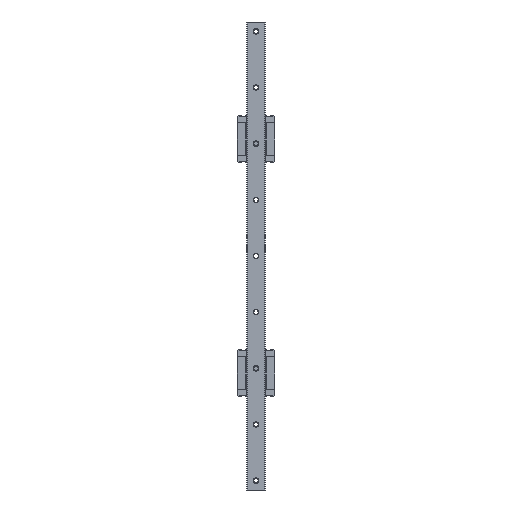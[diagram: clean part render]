
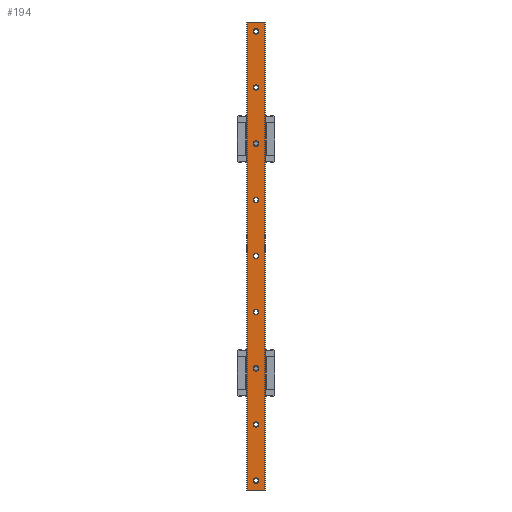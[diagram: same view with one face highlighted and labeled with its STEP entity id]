
A CAD part, front view. The second image highlights one B-rep face of the part: STEP entity #194.
In plain terms, the highlighted planar face has unit normal (0, -1, 0).
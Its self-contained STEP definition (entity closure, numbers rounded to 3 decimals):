
#194 = ADVANCED_FACE( '', ( #521, #522, #523, #524, #525, #526, #527, #528, #529, #530 ), #531, .F. );
#521 = FACE_BOUND( '', #1199, .T. );
#522 = FACE_BOUND( '', #1200, .T. );
#523 = FACE_BOUND( '', #1201, .T. );
#524 = FACE_BOUND( '', #1202, .T. );
#525 = FACE_BOUND( '', #1203, .T. );
#526 = FACE_BOUND( '', #1204, .T. );
#527 = FACE_BOUND( '', #1205, .T. );
#528 = FACE_BOUND( '', #1206, .T. );
#529 = FACE_BOUND( '', #1207, .T. );
#530 = FACE_OUTER_BOUND( '', #1208, .T. );
#531 = PLANE( '', #1209 );
#1199 = EDGE_LOOP( '', ( #1961 ) );
#1200 = EDGE_LOOP( '', ( #1962 ) );
#1201 = EDGE_LOOP( '', ( #1963 ) );
#1202 = EDGE_LOOP( '', ( #1964 ) );
#1203 = EDGE_LOOP( '', ( #1965 ) );
#1204 = EDGE_LOOP( '', ( #1966 ) );
#1205 = EDGE_LOOP( '', ( #1967 ) );
#1206 = EDGE_LOOP( '', ( #1968 ) );
#1207 = EDGE_LOOP( '', ( #1969 ) );
#1208 = EDGE_LOOP( '', ( #1970, #1971, #1972, #1973 ) );
#1209 = AXIS2_PLACEMENT_3D( '', #1974, #1975, #1976 );
#1961 = ORIENTED_EDGE( '', *, *, #4424, .F. );
#1962 = ORIENTED_EDGE( '', *, *, #4425, .F. );
#1963 = ORIENTED_EDGE( '', *, *, #4426, .F. );
#1964 = ORIENTED_EDGE( '', *, *, #4427, .F. );
#1965 = ORIENTED_EDGE( '', *, *, #4428, .F. );
#1966 = ORIENTED_EDGE( '', *, *, #4429, .F. );
#1967 = ORIENTED_EDGE( '', *, *, #4430, .F. );
#1968 = ORIENTED_EDGE( '', *, *, #4431, .F. );
#1969 = ORIENTED_EDGE( '', *, *, #4432, .F. );
#1970 = ORIENTED_EDGE( '', *, *, #4433, .T. );
#1971 = ORIENTED_EDGE( '', *, *, #4434, .F. );
#1972 = ORIENTED_EDGE( '', *, *, #4380, .F. );
#1973 = ORIENTED_EDGE( '', *, *, #4423, .T. );
#1974 = CARTESIAN_POINT( '', ( -9.5, 0., 250. ) );
#1975 = DIRECTION( '', ( 0., 1., 0. ) );
#1976 = DIRECTION( '', ( 0., 0., 1. ) );
#4380 = EDGE_CURVE( '', #5202, #5204, #5205, .T. );
#4423 = EDGE_CURVE( '', #5202, #5277, #5279, .T. );
#4424 = EDGE_CURVE( '', #5280, #5280, #5281, .T. );
#4425 = EDGE_CURVE( '', #5282, #5282, #5283, .T. );
#4426 = EDGE_CURVE( '', #5284, #5284, #5285, .T. );
#4427 = EDGE_CURVE( '', #5286, #5286, #5287, .T. );
#4428 = EDGE_CURVE( '', #5288, #5288, #5289, .T. );
#4429 = EDGE_CURVE( '', #5290, #5290, #5291, .T. );
#4430 = EDGE_CURVE( '', #5292, #5292, #5293, .T. );
#4431 = EDGE_CURVE( '', #5294, #5294, #5295, .T. );
#4432 = EDGE_CURVE( '', #5296, #5296, #5297, .T. );
#4433 = EDGE_CURVE( '', #5277, #5298, #5299, .T. );
#4434 = EDGE_CURVE( '', #5204, #5298, #5300, .T. );
#5202 = VERTEX_POINT( '', #6575 );
#5204 = VERTEX_POINT( '', #6578 );
#5205 = LINE( '', #6579, #6580 );
#5277 = VERTEX_POINT( '', #6680 );
#5279 = LINE( '', #6683, #6684 );
#5280 = VERTEX_POINT( '', #6685 );
#5281 = CIRCLE( '', #6686, 3. );
#5282 = VERTEX_POINT( '', #6687 );
#5283 = CIRCLE( '', #6688, 3. );
#5284 = VERTEX_POINT( '', #6689 );
#5285 = CIRCLE( '', #6690, 3. );
#5286 = VERTEX_POINT( '', #6691 );
#5287 = CIRCLE( '', #6692, 3. );
#5288 = VERTEX_POINT( '', #6693 );
#5289 = CIRCLE( '', #6694, 3. );
#5290 = VERTEX_POINT( '', #6695 );
#5291 = CIRCLE( '', #6696, 3. );
#5292 = VERTEX_POINT( '', #6697 );
#5293 = CIRCLE( '', #6698, 3. );
#5294 = VERTEX_POINT( '', #6699 );
#5295 = CIRCLE( '', #6700, 3. );
#5296 = VERTEX_POINT( '', #6701 );
#5297 = CIRCLE( '', #6702, 3. );
#5298 = VERTEX_POINT( '', #6703 );
#5299 = LINE( '', #6704, #6705 );
#5300 = LINE( '', #6706, #6707 );
#6575 = CARTESIAN_POINT( '', ( -9.5, 0., 250. ) );
#6578 = CARTESIAN_POINT( '', ( 9.5, 0., 250. ) );
#6579 = CARTESIAN_POINT( '', ( -9.5, 0., 250. ) );
#6580 = VECTOR( '', #8580, 1000. );
#6680 = CARTESIAN_POINT( '', ( -9.5, 0., -250. ) );
#6683 = CARTESIAN_POINT( '', ( -9.5, 0., 250. ) );
#6684 = VECTOR( '', #8649, 1000. );
#6685 = CARTESIAN_POINT( '', ( 0., 0., 237. ) );
#6686 = AXIS2_PLACEMENT_3D( '', #8650, #8651, #8652 );
#6687 = CARTESIAN_POINT( '', ( 0., 0., 177. ) );
#6688 = AXIS2_PLACEMENT_3D( '', #8653, #8654, #8655 );
#6689 = CARTESIAN_POINT( '', ( 0., 0., 117. ) );
#6690 = AXIS2_PLACEMENT_3D( '', #8656, #8657, #8658 );
#6691 = CARTESIAN_POINT( '', ( 0., 0., 57. ) );
#6692 = AXIS2_PLACEMENT_3D( '', #8659, #8660, #8661 );
#6693 = CARTESIAN_POINT( '', ( 0., 0., -3. ) );
#6694 = AXIS2_PLACEMENT_3D( '', #8662, #8663, #8664 );
#6695 = CARTESIAN_POINT( '', ( 0., 0., -63. ) );
#6696 = AXIS2_PLACEMENT_3D( '', #8665, #8666, #8667 );
#6697 = CARTESIAN_POINT( '', ( 0., 0., -123. ) );
#6698 = AXIS2_PLACEMENT_3D( '', #8668, #8669, #8670 );
#6699 = CARTESIAN_POINT( '', ( 0., 0., -183. ) );
#6700 = AXIS2_PLACEMENT_3D( '', #8671, #8672, #8673 );
#6701 = CARTESIAN_POINT( '', ( 0., 0., -243. ) );
#6702 = AXIS2_PLACEMENT_3D( '', #8674, #8675, #8676 );
#6703 = CARTESIAN_POINT( '', ( 9.5, 0., -250. ) );
#6704 = CARTESIAN_POINT( '', ( -9.5, 0., -250. ) );
#6705 = VECTOR( '', #8677, 1000. );
#6706 = CARTESIAN_POINT( '', ( 9.5, 0., 250. ) );
#6707 = VECTOR( '', #8678, 1000. );
#8580 = DIRECTION( '', ( 1., 0., 0. ) );
#8649 = DIRECTION( '', ( 0., 0., -1. ) );
#8650 = CARTESIAN_POINT( '', ( 0., 0., 240. ) );
#8651 = DIRECTION( '', ( 0., -1., 0. ) );
#8652 = DIRECTION( '', ( 0., 0., -1. ) );
#8653 = CARTESIAN_POINT( '', ( 0., 0., 180. ) );
#8654 = DIRECTION( '', ( 0., -1., 0. ) );
#8655 = DIRECTION( '', ( 0., 0., -1. ) );
#8656 = CARTESIAN_POINT( '', ( 0., 0., 120. ) );
#8657 = DIRECTION( '', ( 0., -1., 0. ) );
#8658 = DIRECTION( '', ( 0., 0., -1. ) );
#8659 = CARTESIAN_POINT( '', ( 0., 0., 60. ) );
#8660 = DIRECTION( '', ( 0., -1., 0. ) );
#8661 = DIRECTION( '', ( 0., 0., -1. ) );
#8662 = CARTESIAN_POINT( '', ( 0., 0., 0. ) );
#8663 = DIRECTION( '', ( 0., -1., 0. ) );
#8664 = DIRECTION( '', ( 0., 0., -1. ) );
#8665 = CARTESIAN_POINT( '', ( 0., 0., -60. ) );
#8666 = DIRECTION( '', ( 0., -1., 0. ) );
#8667 = DIRECTION( '', ( 0., 0., -1. ) );
#8668 = CARTESIAN_POINT( '', ( 0., 0., -120. ) );
#8669 = DIRECTION( '', ( 0., -1., 0. ) );
#8670 = DIRECTION( '', ( 0., 0., -1. ) );
#8671 = CARTESIAN_POINT( '', ( 0., 0., -180. ) );
#8672 = DIRECTION( '', ( 0., -1., 0. ) );
#8673 = DIRECTION( '', ( 0., 0., -1. ) );
#8674 = CARTESIAN_POINT( '', ( 0., 0., -240. ) );
#8675 = DIRECTION( '', ( 0., -1., 0. ) );
#8676 = DIRECTION( '', ( 0., 0., -1. ) );
#8677 = DIRECTION( '', ( 1., 0., 0. ) );
#8678 = DIRECTION( '', ( 0., 0., -1. ) );
